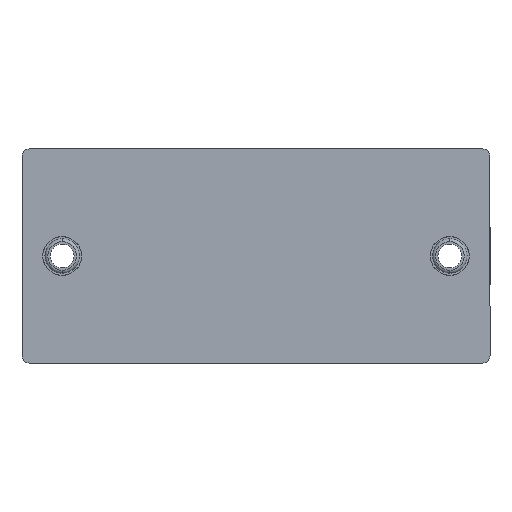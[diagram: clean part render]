
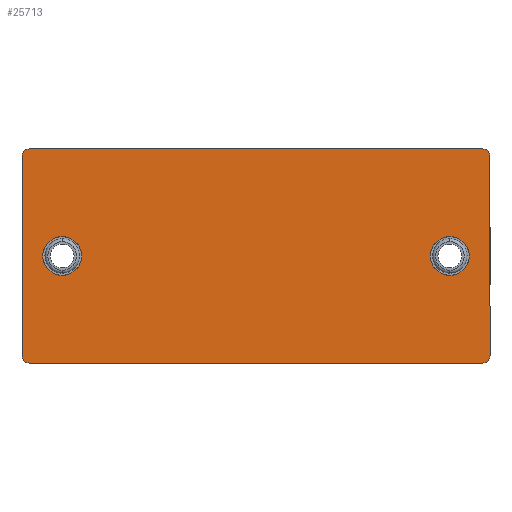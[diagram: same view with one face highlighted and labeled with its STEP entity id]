
A CAD part, front view. The second image highlights one B-rep face of the part: STEP entity #25713.
In plain terms, the highlighted planar face has unit normal (0, -1, 0).
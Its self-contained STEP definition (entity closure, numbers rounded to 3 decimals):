
#229 = LINE ( 'NONE', #34907, #26779 ) ;
#743 = EDGE_CURVE ( 'NONE', #4339, #37461, #12970, .T. ) ;
#1930 = CARTESIAN_POINT ( 'NONE',  ( 79.6, 0., -35.7 ) ) ;
#2717 = VERTEX_POINT ( 'NONE', #12541 ) ;
#3230 = EDGE_CURVE ( 'NONE', #42861, #21641, #229, .T. ) ;
#3247 = FACE_BOUND ( 'NONE', #9938, .T. ) ;
#3680 = DIRECTION ( 'NONE',  ( 1., 0., 0. ) ) ;
#4265 = CARTESIAN_POINT ( 'NONE',  ( 0., 0., 0. ) ) ;
#4339 = VERTEX_POINT ( 'NONE', #29286 ) ;
#5131 = DIRECTION ( 'NONE',  ( 0., -1., 0. ) ) ;
#5151 = EDGE_CURVE ( 'NONE', #33705, #44205, #20432, .T. ) ;
#5390 = DIRECTION ( 'NONE',  ( 0., 0., -1. ) ) ;
#5867 = CARTESIAN_POINT ( 'NONE',  ( 0., 0., -37. ) ) ;
#7333 = ORIENTED_EDGE ( 'NONE', *, *, #3230, .F. ) ;
#8485 = CARTESIAN_POINT ( 'NONE',  ( 1.3, 0., -37. ) ) ;
#9050 = ORIENTED_EDGE ( 'NONE', *, *, #43788, .F. ) ;
#9248 = AXIS2_PLACEMENT_3D ( 'NONE', #13060, #37293, #16559 ) ;
#9398 = DIRECTION ( 'NONE',  ( 0., -1., 0. ) ) ;
#9938 = EDGE_LOOP ( 'NONE', ( #9050, #32549 ) ) ;
#10057 = CARTESIAN_POINT ( 'NONE',  ( 6.95, 0., -18.498 ) ) ;
#10217 = CARTESIAN_POINT ( 'NONE',  ( 1.3, 0., -35.7 ) ) ;
#10482 = DIRECTION ( 'NONE',  ( 0., -1., 0. ) ) ;
#10558 = EDGE_CURVE ( 'NONE', #33705, #2717, #44248, .T. ) ;
#10840 = AXIS2_PLACEMENT_3D ( 'NONE', #42853, #36064, #15299 ) ;
#12541 = CARTESIAN_POINT ( 'NONE',  ( 0., 0., -1.3 ) ) ;
#12870 = AXIS2_PLACEMENT_3D ( 'NONE', #31224, #10482, #34724 ) ;
#12916 = ORIENTED_EDGE ( 'NONE', *, *, #19234, .F. ) ;
#12970 = LINE ( 'NONE', #42707, #21073 ) ;
#13060 = CARTESIAN_POINT ( 'NONE',  ( 6.95, 0., -18.498 ) ) ;
#13386 = CIRCLE ( 'NONE', #38272, 3.356 ) ;
#13564 = DIRECTION ( 'NONE',  ( 0., 0., -1. ) ) ;
#13719 = CARTESIAN_POINT ( 'NONE',  ( 79.6, 0., 0. ) ) ;
#13723 = DIRECTION ( 'NONE',  ( 0., 0., -1. ) ) ;
#14775 = AXIS2_PLACEMENT_3D ( 'NONE', #1930, #26191, #5390 ) ;
#14915 = CARTESIAN_POINT ( 'NONE',  ( 1.3, 0., -1.3 ) ) ;
#14964 = ORIENTED_EDGE ( 'NONE', *, *, #18336, .F. ) ;
#15181 = CARTESIAN_POINT ( 'NONE',  ( 79.6, 0., -37. ) ) ;
#15201 = ORIENTED_EDGE ( 'NONE', *, *, #28113, .T. ) ;
#15299 = DIRECTION ( 'NONE',  ( 0., 0., -1. ) ) ;
#15685 = CIRCLE ( 'NONE', #12870, 1.3 ) ;
#16559 = DIRECTION ( 'NONE',  ( 0., 0., -1. ) ) ;
#17633 = CIRCLE ( 'NONE', #9248, 3.356 ) ;
#18336 = EDGE_CURVE ( 'NONE', #20269, #44205, #27070, .T. ) ;
#18437 = DIRECTION ( 'NONE',  ( 0., 0., -1. ) ) ;
#19234 = EDGE_CURVE ( 'NONE', #43350, #27839, #22542, .T. ) ;
#20189 = AXIS2_PLACEMENT_3D ( 'NONE', #14915, #39196, #18437 ) ;
#20196 = VERTEX_POINT ( 'NONE', #28355 ) ;
#20269 = VERTEX_POINT ( 'NONE', #15181 ) ;
#20432 = CIRCLE ( 'NONE', #21498, 1.3 ) ;
#21073 = VECTOR ( 'NONE', #32419, 1000. ) ;
#21331 = EDGE_CURVE ( 'NONE', #42861, #2717, #28247, .T. ) ;
#21498 = AXIS2_PLACEMENT_3D ( 'NONE', #10217, #34447, #13723 ) ;
#21641 = VERTEX_POINT ( 'NONE', #13719 ) ;
#22205 = CIRCLE ( 'NONE', #42612, 3.356 ) ;
#22542 = CIRCLE ( 'NONE', #28451, 3.356 ) ;
#22955 = EDGE_CURVE ( 'NONE', #27839, #43350, #13386, .T. ) ;
#23200 = ORIENTED_EDGE ( 'NONE', *, *, #743, .F. ) ;
#23855 = ORIENTED_EDGE ( 'NONE', *, *, #5151, .T. ) ;
#24626 = CIRCLE ( 'NONE', #14775, 1.3 ) ;
#25030 = EDGE_CURVE ( 'NONE', #4339, #21641, #15685, .T. ) ;
#25327 = VERTEX_POINT ( 'NONE', #36394 ) ;
#25553 = CARTESIAN_POINT ( 'NONE',  ( 1.3, 0., 0. ) ) ;
#25611 = PLANE ( 'NONE',  #10840 ) ;
#25713 = ADVANCED_FACE ( 'NONE', ( #29771, #3247, #39035 ), #25611, .T. ) ;
#25913 = CARTESIAN_POINT ( 'NONE',  ( 73.95, 0., -18.498 ) ) ;
#26191 = DIRECTION ( 'NONE',  ( 0., -1., 0. ) ) ;
#26534 = CARTESIAN_POINT ( 'NONE',  ( 0., 0., -35.7 ) ) ;
#26779 = VECTOR ( 'NONE', #3680, 1000. ) ;
#27070 = LINE ( 'NONE', #5867, #36283 ) ;
#27839 = VERTEX_POINT ( 'NONE', #37261 ) ;
#28113 = EDGE_CURVE ( 'NONE', #20269, #37461, #24626, .T. ) ;
#28247 = CIRCLE ( 'NONE', #20189, 1.3 ) ;
#28355 = CARTESIAN_POINT ( 'NONE',  ( 6.95, 0., -21.854 ) ) ;
#28451 = AXIS2_PLACEMENT_3D ( 'NONE', #30090, #9398, #33587 ) ;
#29286 = CARTESIAN_POINT ( 'NONE',  ( 80.9, 0., -1.3 ) ) ;
#29354 = DIRECTION ( 'NONE',  ( 0., 0., -1. ) ) ;
#29771 = FACE_BOUND ( 'NONE', #41495, .T. ) ;
#30069 = DIRECTION ( 'NONE',  ( -1., 0., 0. ) ) ;
#30080 = ORIENTED_EDGE ( 'NONE', *, *, #21331, .T. ) ;
#30090 = CARTESIAN_POINT ( 'NONE',  ( 73.95, 0., -18.498 ) ) ;
#31224 = CARTESIAN_POINT ( 'NONE',  ( 79.6, 0., -1.3 ) ) ;
#31392 = CARTESIAN_POINT ( 'NONE',  ( 73.95, 0., -15.142 ) ) ;
#31820 = EDGE_CURVE ( 'NONE', #25327, #20196, #22205, .T. ) ;
#32167 = EDGE_LOOP ( 'NONE', ( #14964, #15201, #23200, #33060, #7333, #30080, #43882, #23855 ) ) ;
#32419 = DIRECTION ( 'NONE',  ( 0., 0., -1. ) ) ;
#32549 = ORIENTED_EDGE ( 'NONE', *, *, #31820, .F. ) ;
#33060 = ORIENTED_EDGE ( 'NONE', *, *, #25030, .T. ) ;
#33587 = DIRECTION ( 'NONE',  ( 0., 0., -1. ) ) ;
#33705 = VERTEX_POINT ( 'NONE', #26534 ) ;
#34302 = DIRECTION ( 'NONE',  ( 0., -1., 0. ) ) ;
#34447 = DIRECTION ( 'NONE',  ( 0., -1., 0. ) ) ;
#34476 = ORIENTED_EDGE ( 'NONE', *, *, #22955, .F. ) ;
#34724 = DIRECTION ( 'NONE',  ( 0., 0., -1. ) ) ;
#34907 = CARTESIAN_POINT ( 'NONE',  ( 0., 0., 0. ) ) ;
#35017 = VECTOR ( 'NONE', #42428, 1000. ) ;
#36064 = DIRECTION ( 'NONE',  ( 0., -1., 0. ) ) ;
#36283 = VECTOR ( 'NONE', #30069, 1000. ) ;
#36394 = CARTESIAN_POINT ( 'NONE',  ( 6.95, 0., -15.142 ) ) ;
#37261 = CARTESIAN_POINT ( 'NONE',  ( 73.95, 0., -21.854 ) ) ;
#37293 = DIRECTION ( 'NONE',  ( 0., -1., 0. ) ) ;
#37461 = VERTEX_POINT ( 'NONE', #42060 ) ;
#38272 = AXIS2_PLACEMENT_3D ( 'NONE', #25913, #5131, #29354 ) ;
#39035 = FACE_OUTER_BOUND ( 'NONE', #32167, .T. ) ;
#39196 = DIRECTION ( 'NONE',  ( 0., -1., 0. ) ) ;
#41495 = EDGE_LOOP ( 'NONE', ( #34476, #12916 ) ) ;
#42060 = CARTESIAN_POINT ( 'NONE',  ( 80.9, 0., -35.7 ) ) ;
#42428 = DIRECTION ( 'NONE',  ( 0., 0., 1. ) ) ;
#42612 = AXIS2_PLACEMENT_3D ( 'NONE', #10057, #34302, #13564 ) ;
#42707 = CARTESIAN_POINT ( 'NONE',  ( 80.9, 0., 0. ) ) ;
#42853 = CARTESIAN_POINT ( 'NONE',  ( 0., 0., 0. ) ) ;
#42861 = VERTEX_POINT ( 'NONE', #25553 ) ;
#43350 = VERTEX_POINT ( 'NONE', #31392 ) ;
#43788 = EDGE_CURVE ( 'NONE', #20196, #25327, #17633, .T. ) ;
#43882 = ORIENTED_EDGE ( 'NONE', *, *, #10558, .F. ) ;
#44205 = VERTEX_POINT ( 'NONE', #8485 ) ;
#44248 = LINE ( 'NONE', #4265, #35017 ) ;
